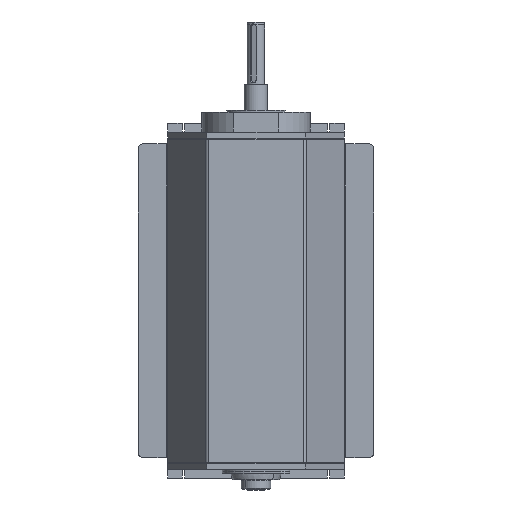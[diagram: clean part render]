
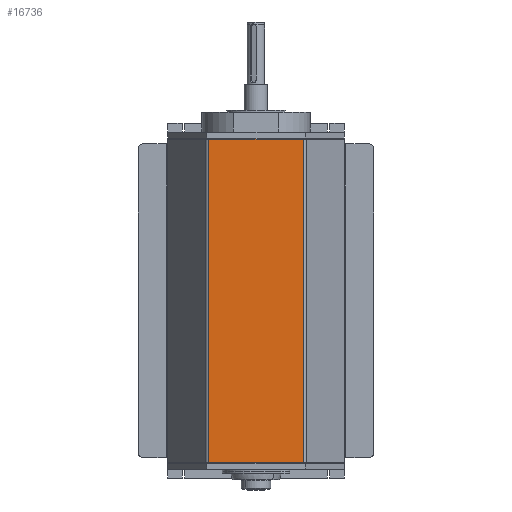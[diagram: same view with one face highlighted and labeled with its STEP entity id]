
A CAD part, front view. The second image highlights one B-rep face of the part: STEP entity #16736.
In plain terms, the highlighted planar face has unit normal (0, -1, 0).
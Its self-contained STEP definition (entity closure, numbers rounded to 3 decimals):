
#95 = LINE ( 'NONE', #8835, #12332 ) ;
#962 = DIRECTION ( 'NONE',  ( 1., 0., 0. ) ) ;
#1240 = ORIENTED_EDGE ( 'NONE', *, *, #12747, .T. ) ;
#1789 = VERTEX_POINT ( 'NONE', #6501 ) ;
#1948 = CARTESIAN_POINT ( 'NONE',  ( -50., 0., -164.5 ) ) ;
#2165 = DIRECTION ( 'NONE',  ( 0., 1., 0. ) ) ;
#2355 = ORIENTED_EDGE ( 'NONE', *, *, #17236, .T. ) ;
#4123 = CARTESIAN_POINT ( 'NONE',  ( -48.268, 0., -164.5 ) ) ;
#4486 = VERTEX_POINT ( 'NONE', #20651 ) ;
#4917 = CARTESIAN_POINT ( 'NONE',  ( -48.268, 0., 164.5 ) ) ;
#5115 = EDGE_CURVE ( 'NONE', #1789, #14215, #95, .T. ) ;
#5285 = DIRECTION ( 'NONE',  ( 1., 0., 0. ) ) ;
#5641 = CARTESIAN_POINT ( 'NONE',  ( -50., 0., 164.5 ) ) ;
#6033 = VERTEX_POINT ( 'NONE', #4123 ) ;
#6501 = CARTESIAN_POINT ( 'NONE',  ( 48.268, 0., 164.5 ) ) ;
#7256 = DIRECTION ( 'NONE',  ( -1., 0., 0. ) ) ;
#8395 = LINE ( 'NONE', #16910, #13192 ) ;
#8674 = CARTESIAN_POINT ( 'NONE',  ( 48.268, 0., -164.5 ) ) ;
#8698 = PLANE ( 'NONE',  #19517 ) ;
#8835 = CARTESIAN_POINT ( 'NONE',  ( 48.268, 0., 164.5 ) ) ;
#10350 = VECTOR ( 'NONE', #5285, 1000. ) ;
#11409 = DIRECTION ( 'NONE',  ( 0., 0., -1. ) ) ;
#11651 = FACE_OUTER_BOUND ( 'NONE', #12208, .T. ) ;
#11764 = VECTOR ( 'NONE', #11409, 1000. ) ;
#12208 = EDGE_LOOP ( 'NONE', ( #2355, #20669, #12558, #1240 ) ) ;
#12332 = VECTOR ( 'NONE', #15325, 1000. ) ;
#12558 = ORIENTED_EDGE ( 'NONE', *, *, #15670, .F. ) ;
#12747 = EDGE_CURVE ( 'NONE', #4486, #6033, #15045, .T. ) ;
#13192 = VECTOR ( 'NONE', #962, 1000. ) ;
#14215 = VERTEX_POINT ( 'NONE', #8674 ) ;
#15045 = LINE ( 'NONE', #4917, #11764 ) ;
#15325 = DIRECTION ( 'NONE',  ( 0., 0., -1. ) ) ;
#15670 = EDGE_CURVE ( 'NONE', #4486, #1789, #8395, .T. ) ;
#16736 = ADVANCED_FACE ( 'NONE', ( #11651 ), #8698, .F. ) ;
#16910 = CARTESIAN_POINT ( 'NONE',  ( -50., 0., 164.5 ) ) ;
#17236 = EDGE_CURVE ( 'NONE', #6033, #14215, #19665, .T. ) ;
#19517 = AXIS2_PLACEMENT_3D ( 'NONE', #5641, #2165, #7256 ) ;
#19665 = LINE ( 'NONE', #1948, #10350 ) ;
#20651 = CARTESIAN_POINT ( 'NONE',  ( -48.268, 0., 164.5 ) ) ;
#20669 = ORIENTED_EDGE ( 'NONE', *, *, #5115, .F. ) ;
